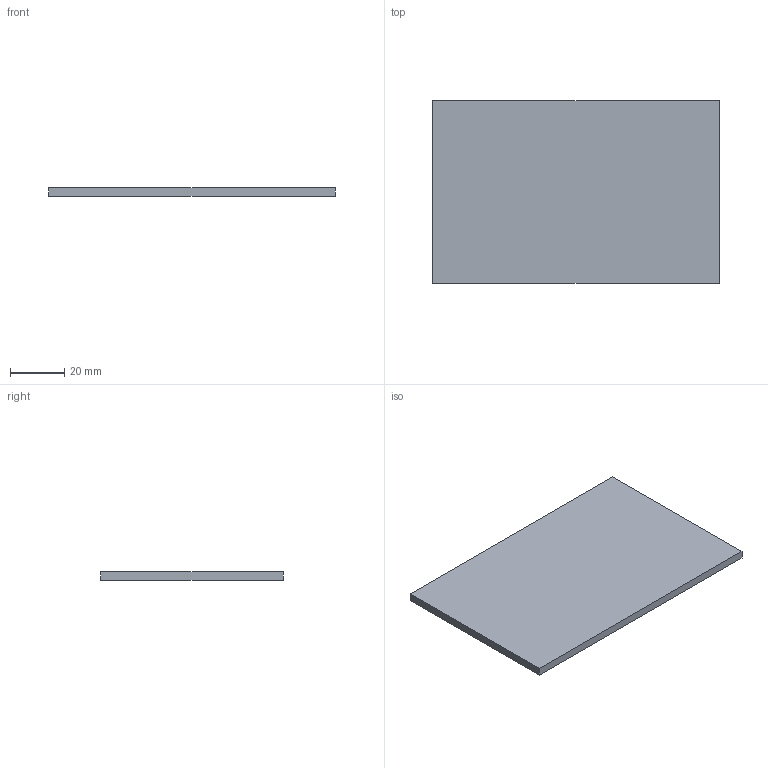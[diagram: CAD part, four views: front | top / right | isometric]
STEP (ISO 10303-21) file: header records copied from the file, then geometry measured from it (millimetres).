
FILE_DESCRIPTION((''),'2;1');
FILE_NAME('DMG48270F043-01WN','2023-06-16T',('Administrator'),(''),'PRO/ENGINEER BY PARAMETRIC TECHNOLOGY CORPORATION, 2011310','PRO/ENGINEER BY PARAMETRIC TECHNOLOGY CORPORATION, 2011310','');
FILE_SCHEMA(('CONFIG_CONTROL_DESIGN','SHAPE_APPEARANCE_LAYERS_GROUPS'));
Length unit declared in the file: millimetre
Products named in the file (1): DMG48270F043-01WN
Bounding box: 105.42 x 67.07 x 3 mm (x, y, z)
Volume: 21211.6 mm3; surface area: 15176 mm2
Topology: 1 solids, 1 shells, 6 faces, 1719 edges, 1949 vertices
Faces by surface type: plane 6
Entity records: 19436 total; most frequent: PRESENTATION_STYLE_ASSIGNMENT 2425, STYLED_ITEM 2425, CURVE_STYLE 2067, DIRECTION 1797, CARTESIAN_POINT 1735, TRIMMED_CURVE 1707, VECTOR 1657, LINE 1657
